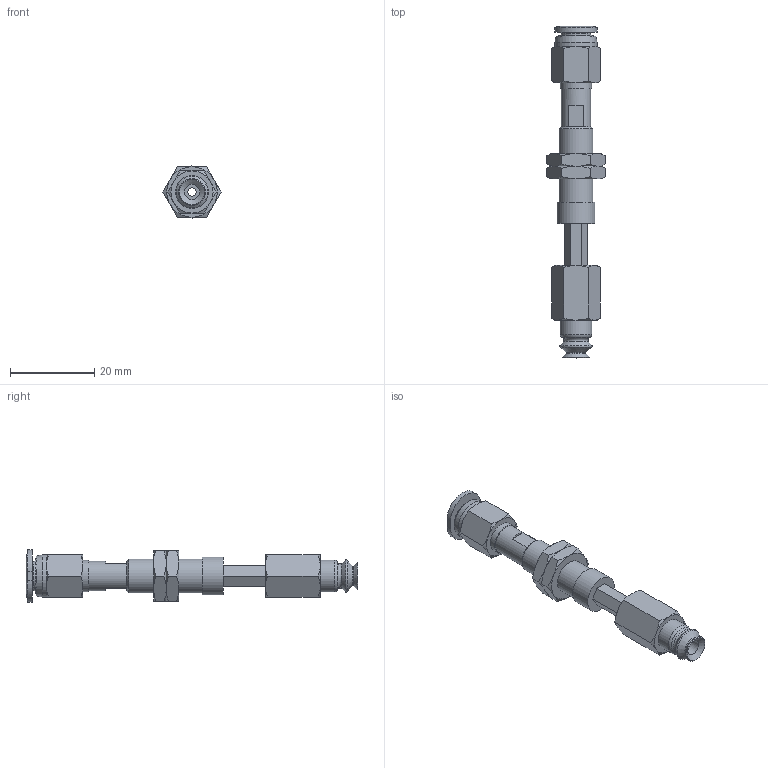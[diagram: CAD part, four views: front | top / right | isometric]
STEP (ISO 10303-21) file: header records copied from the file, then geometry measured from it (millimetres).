
FILE_DESCRIPTION(('STEP AP203'),'1');
FILE_NAME('-O.stp','2025-08-27T06:20:10',(' '),(' '),'Spatial InterOp 3D',' ',' ');
FILE_SCHEMA(('CONFIG_CONTROL_DESIGN'));
Length unit declared in the file: millimetre
Products named in the file (7): BNABPJTH-6-10-※-O; ADAPTER; NAPATH-10A-10--M; NAPJH-6-10-NUT; NAPJTH-6-10-FBODY; BPJG-6-※; PC-C_06-M5
Assembly tree (7 placements, depth 2):
  BNABPJTH-6-10-※-O
    ADAPTER
    NAPATH-10A-10--M
    NAPJH-6-10-NUT  x2
    NAPJTH-6-10-FBODY
    BPJG-6-※
    PC-C_06-M5
Bounding box: 13.86 x 78.98 x 12.4 mm (x, y, z)
Volume: 3401.3 mm3; surface area: 5147.2 mm2
Topology: 6 solids, 9 shells, 176 faces, 377 edges, 229 vertices
Faces by surface type: plane 68, cone 65, cylinder 23, torus 13, bspline 4, revolution 3
Full cylindrical faces by diameter (mm): 2 x2, 3.64 x1, 4 x4, 4.134 x1, 5 x1, 6 x2, 7 x2, 7.188 x2, 7.4 x1, 7.5 x1, 8 x1, 8.2 x1, 9 x1, 10 x1
Entity records: 4532 total; most frequent: CARTESIAN_POINT 1250, DIRECTION 607, ORIENTED_EDGE 526, EDGE_CURVE 265, AXIS2_PLACEMENT_3D 264, EDGE_LOOP 226, VERTEX_POINT 187, FACE_OUTER_BOUND 126
